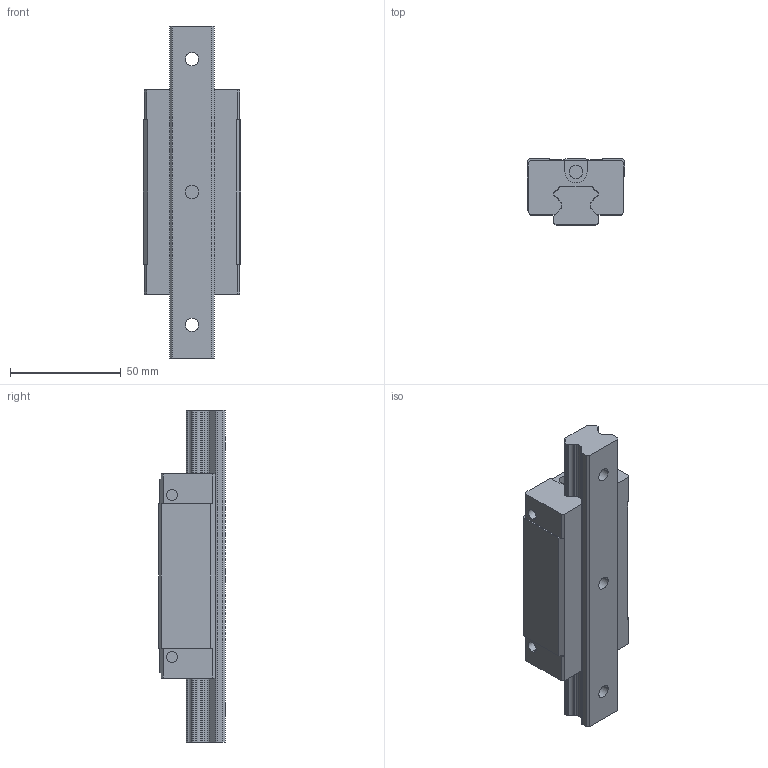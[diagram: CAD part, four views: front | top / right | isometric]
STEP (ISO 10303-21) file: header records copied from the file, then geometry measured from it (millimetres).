
FILE_DESCRIPTION((''),'2;1');
FILE_NAME('HGH20H_ASM_1_ASM','2008-07-11T',('immo'),(''),'PRO/ENGINEER BY PARAMETRIC TECHNOLOGY CORPORATION, 2004360','PRO/ENGINEER BY PARAMETRIC TECHNOLOGY CORPORATION, 2004360','');
FILE_SCHEMA(('CONFIG_CONTROL_DESIGN'));
Length unit declared in the file: millimetre
Products named in the file (3): HGH20H_2; PRT0001; HGH20H_ASM_1_ASM
Assembly tree (2 placements, depth 2):
  HGH20H_ASM_1_ASM
    HGH20H_2
    PRT0001
Bounding box: 44 x 30 x 150 mm (x, y, z)
Volume: 121105.6 mm3; surface area: 31465.7 mm2
Topology: 2 solids, 2 shells, 213 faces, 560 edges, 368 vertices
Faces by surface type: plane 123, cylinder 90
Entity records: 6705 total; most frequent: DIRECTION 1176, CARTESIAN_POINT 1164, ORIENTED_EDGE 1120, EDGE_CURVE 560, AXIS2_PLACEMENT_3D 402, VECTOR 372, LINE 372, VERTEX_POINT 368
